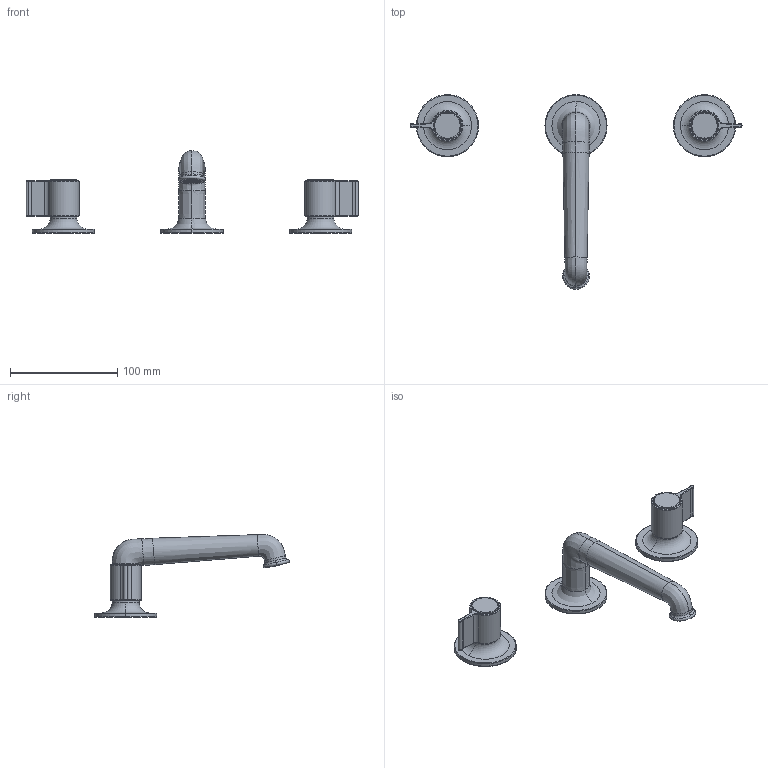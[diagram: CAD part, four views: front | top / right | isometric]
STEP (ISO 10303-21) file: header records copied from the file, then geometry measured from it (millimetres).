
FILE_DESCRIPTION((''),'2;1');
FILE_NAME('76000J504W000000_SW0001','2025-03-17T15:36:33',('cristian.dorz'),(''),'CREO PARAMETRIC BY PTC INC, 2022281','CREO PARAMETRIC BY PTC INC, 2022281','');
FILE_SCHEMA(('AUTOMOTIVE_DESIGN { 1 0 10303 214 1 1 1 1 }'));
Length unit declared in the file: millimetre
Products named in the file (1): 76000J504W000000_SW0001
Bounding box: 310 x 181.87 x 77.33 mm (x, y, z)
Volume: 186330.6 mm3; surface area: 45039.9 mm2
Topology: 3 solids, 7 shells, 585 faces, 1448 edges, 938 vertices
Faces by surface type: plane 432, cylinder 55, torus 50, bspline 28, cone 14, extrusion 4, sphere 2
Entity records: 27881 total; most frequent: CARTESIAN_POINT 9434, DIRECTION 3087, ORIENTED_EDGE 2896, EDGE_CURVE 1448, AXIS2_PLACEMENT_3D 1141, VERTEX_POINT 938, VECTOR 802, LINE 798
